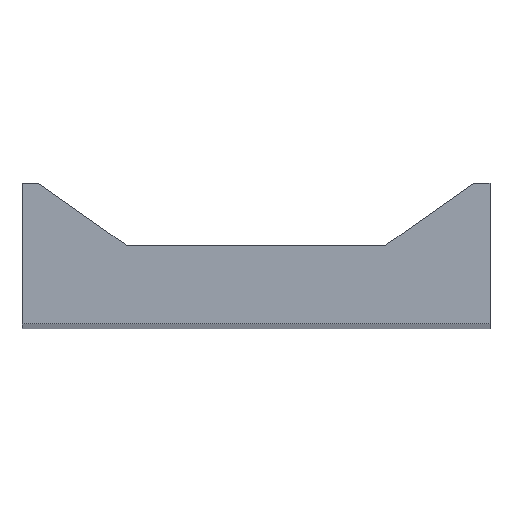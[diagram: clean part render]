
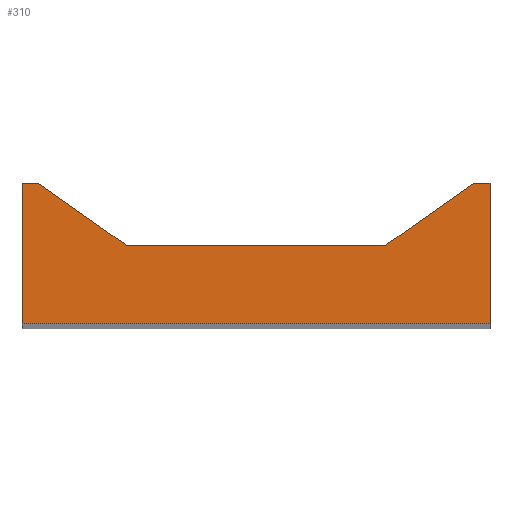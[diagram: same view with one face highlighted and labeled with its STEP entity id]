
A CAD part, top view. The second image highlights one B-rep face of the part: STEP entity #310.
In plain terms, the highlighted planar face has unit normal (0, 0, 1).
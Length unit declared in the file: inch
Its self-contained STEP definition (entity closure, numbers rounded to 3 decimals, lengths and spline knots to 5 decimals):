
#17 = DIRECTION ( 'NONE',  ( 0., 1., 0. ) ) ;
#42 = DIRECTION ( 'NONE',  ( -1., 0., 0. ) ) ;
#61 = CARTESIAN_POINT ( 'NONE',  ( 0.8866, 0.27216, 8.75 ) ) ;
#89 = VERTEX_POINT ( 'NONE', #519 ) ;
#96 = LINE ( 'NONE', #924, #167 ) ;
#99 = CARTESIAN_POINT ( 'NONE',  ( -0.6134, 0.27216, 8.75 ) ) ;
#104 = EDGE_CURVE ( 'NONE', #175, #218, #927, .T. ) ;
#125 = DIRECTION ( 'NONE',  ( 0., -1., 0. ) ) ;
#126 = ORIENTED_EDGE ( 'NONE', *, *, #345, .F. ) ;
#149 = ORIENTED_EDGE ( 'NONE', *, *, #423, .F. ) ;
#160 = VERTEX_POINT ( 'NONE', #783 ) ;
#163 = CARTESIAN_POINT ( 'NONE',  ( 0.8866, -0.17784, 8.75 ) ) ;
#167 = VECTOR ( 'NONE', #889, 39.37008 ) ;
#171 = VERTEX_POINT ( 'NONE', #956 ) ;
#175 = VERTEX_POINT ( 'NONE', #559 ) ;
#192 = ORIENTED_EDGE ( 'NONE', *, *, #467, .T. ) ;
#197 = EDGE_LOOP ( 'NONE', ( #149, #542, #126, #192, #337, #377, #287, #751 ) ) ;
#218 = VERTEX_POINT ( 'NONE', #373 ) ;
#287 = ORIENTED_EDGE ( 'NONE', *, *, #683, .T. ) ;
#310 = ADVANCED_FACE ( 'NONE', ( #951 ), #603, .T. ) ;
#317 = LINE ( 'NONE', #768, #609 ) ;
#319 = VERTEX_POINT ( 'NONE', #163 ) ;
#328 = VECTOR ( 'NONE', #808, 39.37008 ) ;
#337 = ORIENTED_EDGE ( 'NONE', *, *, #965, .T. ) ;
#345 = EDGE_CURVE ( 'NONE', #89, #175, #317, .T. ) ;
#359 = CARTESIAN_POINT ( 'NONE',  ( -0.6134, -0.17784, 8.75 ) ) ;
#373 = CARTESIAN_POINT ( 'NONE',  ( 0.5496, 0.07216, 8.75 ) ) ;
#377 = ORIENTED_EDGE ( 'NONE', *, *, #836, .T. ) ;
#401 = DIRECTION ( 'NONE',  ( 0.819, 0.574, 0. ) ) ;
#421 = CARTESIAN_POINT ( 'NONE',  ( -0.2764, 0.07216, 8.75 ) ) ;
#423 = EDGE_CURVE ( 'NONE', #218, #160, #571, .T. ) ;
#445 = VECTOR ( 'NONE', #826, 39.37008 ) ;
#462 = CARTESIAN_POINT ( 'NONE',  ( 0.5496, 0.07216, 8.75 ) ) ;
#467 = EDGE_CURVE ( 'NONE', #89, #470, #631, .T. ) ;
#470 = VERTEX_POINT ( 'NONE', #707 ) ;
#519 = CARTESIAN_POINT ( 'NONE',  ( -0.5614, 0.27216, 8.75 ) ) ;
#526 = DIRECTION ( 'NONE',  ( 1., 0., 0. ) ) ;
#541 = VECTOR ( 'NONE', #125, 39.37008 ) ;
#542 = ORIENTED_EDGE ( 'NONE', *, *, #104, .F. ) ;
#559 = CARTESIAN_POINT ( 'NONE',  ( -0.2764, 0.07216, 8.75 ) ) ;
#571 = LINE ( 'NONE', #462, #742 ) ;
#603 = PLANE ( 'NONE',  #780 ) ;
#609 = VECTOR ( 'NONE', #635, 39.37008 ) ;
#623 = LINE ( 'NONE', #359, #445 ) ;
#631 = LINE ( 'NONE', #785, #825 ) ;
#635 = DIRECTION ( 'NONE',  ( 0.819, -0.574, 0. ) ) ;
#677 = VERTEX_POINT ( 'NONE', #61 ) ;
#683 = EDGE_CURVE ( 'NONE', #319, #677, #895, .T. ) ;
#707 = CARTESIAN_POINT ( 'NONE',  ( -0.6134, 0.27216, 8.75 ) ) ;
#742 = VECTOR ( 'NONE', #401, 39.37008 ) ;
#751 = ORIENTED_EDGE ( 'NONE', *, *, #776, .T. ) ;
#755 = CARTESIAN_POINT ( 'NONE',  ( 0., 0., 8.75 ) ) ;
#759 = LINE ( 'NONE', #99, #541 ) ;
#768 = CARTESIAN_POINT ( 'NONE',  ( -0.2764, 0.07216, 8.75 ) ) ;
#776 = EDGE_CURVE ( 'NONE', #677, #160, #96, .T. ) ;
#780 = AXIS2_PLACEMENT_3D ( 'NONE', #755, #801, #526 ) ;
#783 = CARTESIAN_POINT ( 'NONE',  ( 0.8346, 0.27216, 8.75 ) ) ;
#785 = CARTESIAN_POINT ( 'NONE',  ( -0.6134, 0.27216, 8.75 ) ) ;
#801 = DIRECTION ( 'NONE',  ( 0., 0., 1. ) ) ;
#808 = DIRECTION ( 'NONE',  ( 1., 0., 0. ) ) ;
#825 = VECTOR ( 'NONE', #42, 39.37008 ) ;
#826 = DIRECTION ( 'NONE',  ( 1., 0., 0. ) ) ;
#833 = CARTESIAN_POINT ( 'NONE',  ( 0.8866, 0.27216, 8.75 ) ) ;
#836 = EDGE_CURVE ( 'NONE', #171, #319, #623, .T. ) ;
#889 = DIRECTION ( 'NONE',  ( -1., 0., 0. ) ) ;
#895 = LINE ( 'NONE', #833, #958 ) ;
#924 = CARTESIAN_POINT ( 'NONE',  ( -0.6134, 0.27216, 8.75 ) ) ;
#927 = LINE ( 'NONE', #421, #328 ) ;
#951 = FACE_OUTER_BOUND ( 'NONE', #197, .T. ) ;
#956 = CARTESIAN_POINT ( 'NONE',  ( -0.6134, -0.17784, 8.75 ) ) ;
#958 = VECTOR ( 'NONE', #17, 39.37008 ) ;
#965 = EDGE_CURVE ( 'NONE', #470, #171, #759, .T. ) ;
